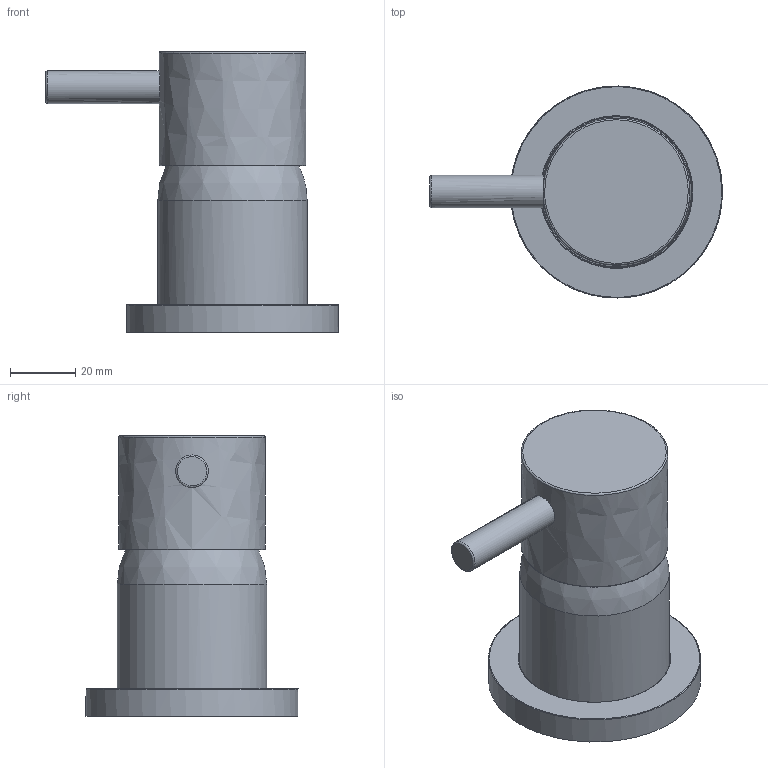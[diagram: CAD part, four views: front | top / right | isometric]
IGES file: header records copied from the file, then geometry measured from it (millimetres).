
Global section: file name: PR52AW201; native system: Autodesk Inventor 2017; preprocessor: unknown; author: PIZZERA; date: 20210408.133831; units: millimetre
Bounding box: 89.78 x 64.98 x 86 mm (x, y, z)
Volume: 155396.6 mm3; surface area: 21196.6 mm2
Topology: 1 solids, 1 shells, 19 faces, 46 edges, 32 vertices
Faces by surface type: bspline 19
